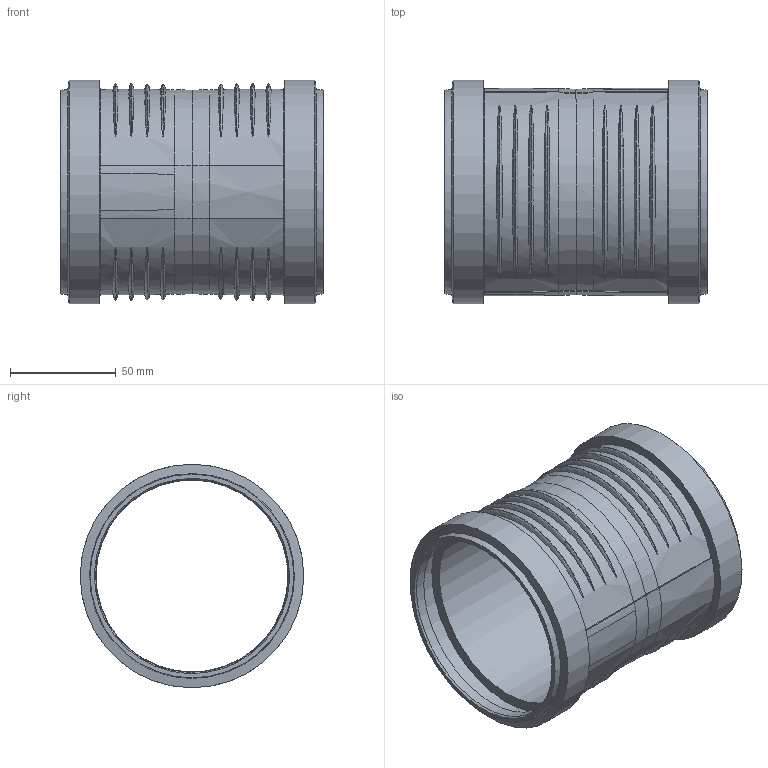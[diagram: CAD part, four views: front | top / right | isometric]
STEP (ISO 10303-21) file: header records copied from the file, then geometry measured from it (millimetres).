
FILE_DESCRIPTION(/* description */ (''),/* implementation_level */ '2;1');
FILE_NAME(/* name */ '390417.stp',/* time_stamp */ '2023-09-26T13:21:24+02:00',/* author */ ('JANAN'),/* organization */ (''),/* preprocessor_version */ 'ST-DEVELOPER v19.2',/* originating_system */ 'Autodesk Inventor 2023',/* authorisation */ '');
FILE_SCHEMA (('AUTOMOTIVE_DESIGN { 1 0 10303 214 3 1 1 }'));
Length unit declared in the file: millimetre
Products named in the file (1): tmp1E9C.tmp
Bounding box: 124.4 x 105.77 x 105.77 mm (x, y, z)
Volume: 133040.4 mm3; surface area: 89543.8 mm2
Topology: 1 solids, 1 shells, 92 faces, 209 edges, 135 vertices
Faces by surface type: bspline 69, cone 10, cylinder 7, plane 6
Full cylindrical faces by diameter (mm): 90.9 x1, 91.2 x2, 100.2 x2, 105.8 x2
Entity records: 11356 total; most frequent: CARTESIAN_POINT 9468, ORIENTED_EDGE 418, DIRECTION 293, EDGE_CURVE 209, AXIS2_PLACEMENT_3D 138, VERTEX_POINT 135, EDGE_LOOP 110, CIRCLE 108
